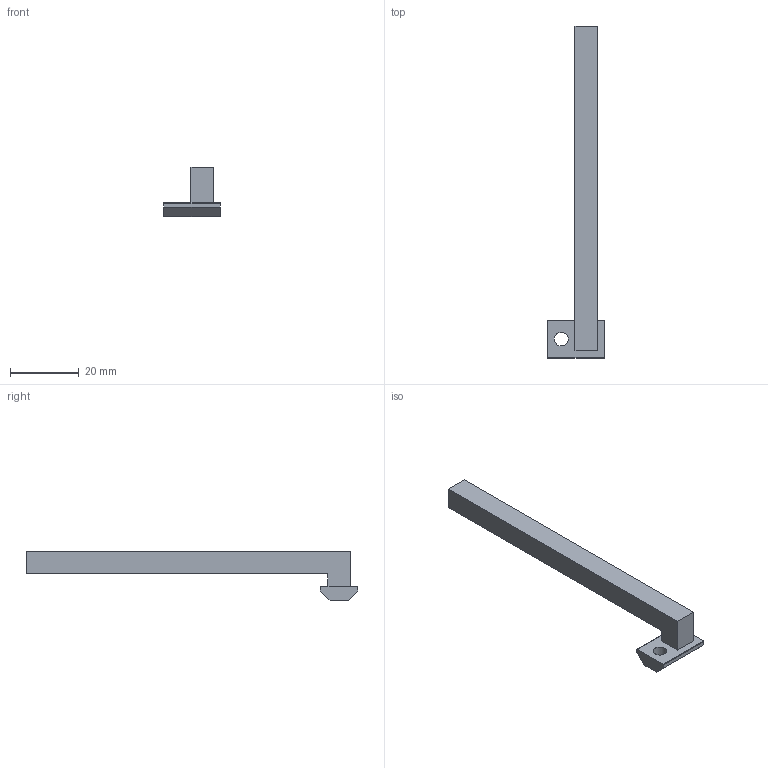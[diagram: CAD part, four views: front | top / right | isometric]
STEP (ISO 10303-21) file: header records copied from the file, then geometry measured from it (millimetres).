
FILE_DESCRIPTION(/* description */ ('STEP AP242 Edition 2','CAx-IF Rec.Pracs.---Representation and Presentation of Product Manufacturing Information (PMI)---4.0---2014-10-13','CAx-IF Rec.Pracs.---3D Tessellated Geometry---0.4---2014-09-14','2;1','CAx-IF Rec.Pracs.---User Defined Attributes---1.5---2016-08-15'),/* implementation_level */ '2;1');
FILE_NAME(/* name */ 'X-Axis Bumper (Right)',/* time_stamp */ '2025-11-29T19:51:01Z',/* author */ (''),/* organization */ (''),/* preprocessor_version */ 'ST-DEVELOPER v20',/* originating_system */ 'ONSHAPE BY PTC INC, 1.207',/* authorisation */ ' ');
FILE_SCHEMA (('AP242_MANAGED_MODEL_BASED_3D_ENGINEERING_MIM_LF { 1 0 10303 442 3 1 4 }'));
Length unit declared in the file: metre
Products named in the file (1): Part 1
Bounding box: 16.6 x 96.8 x 14.47 mm (x, y, z)
Volume: 4861.2 mm3; surface area: 3145 mm2
Topology: 1 solids, 1 shells, 18 faces, 46 edges, 31 vertices
Faces by surface type: plane 15, cylinder 3
Full cylindrical faces by diameter (mm): 4 x1
Entity records: 556 total; most frequent: CARTESIAN_POINT 93, ORIENTED_EDGE 88, DIRECTION 88, EDGE_CURVE 44, LINE 38, VECTOR 38, VERTEX_POINT 30, AXIS2_PLACEMENT_3D 25
